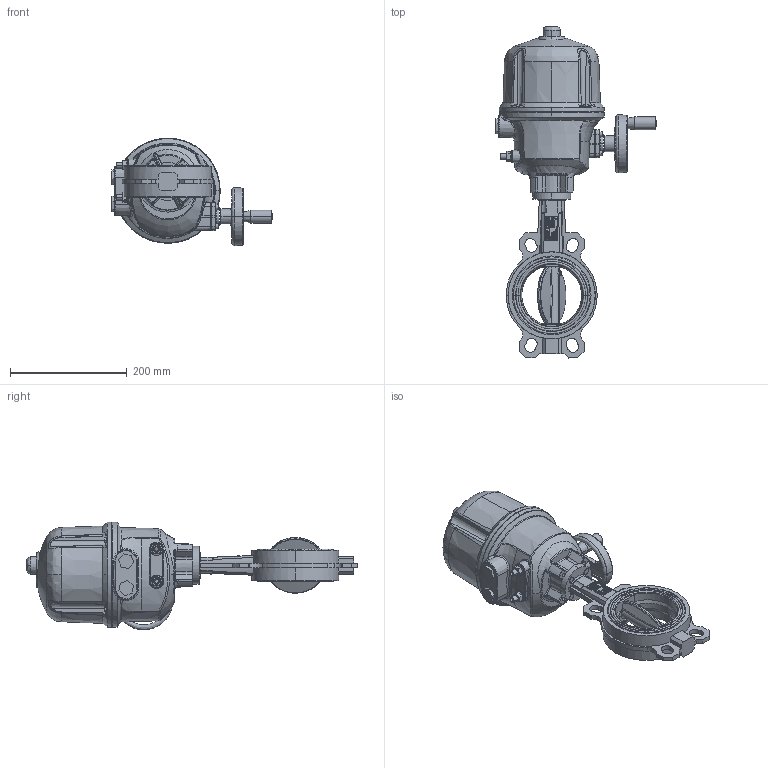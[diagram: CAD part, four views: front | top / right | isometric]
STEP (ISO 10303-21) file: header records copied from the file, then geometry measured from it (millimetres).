
FILE_DESCRIPTION (( 'STEP AP214' ), '1' );
FILE_NAME ('VPG444X-BX4XX0100.step', '2022-09-20T09:52:12', ( '' ), ( '' ), 'SwSTEP 2.0', 'SolidWorks 2020', '' );
FILE_SCHEMA (( 'AUTOMOTIVE_DESIGN' ));
Length unit declared in the file: millimetre
Products named in the file (1): VPG444X-BX4XX0100
Bounding box: 275.33 x 568.99 x 184.42 mm (x, y, z)
Surface area: 340782.4 mm2 (no closed solid volume)
Topology: 0 solids, 65 shells, 1058 faces, 5174 edges, 4051 vertices
Faces by surface type: bspline 410, plane 328, cylinder 184, cone 132, torus 4
Entity records: 99741 total; most frequent: CARTESIAN_POINT 52864, ORIENTED_EDGE 7332, DIRECTION 5341, EDGE_CURVE 5104, VERTEX_POINT 4051, VECTOR 2291, LINE 2291, B_SPLINE_CURVE_WITH_KNOTS 1848
